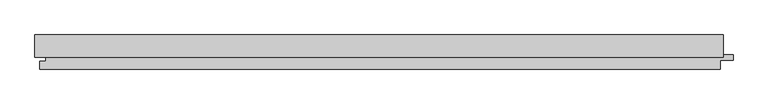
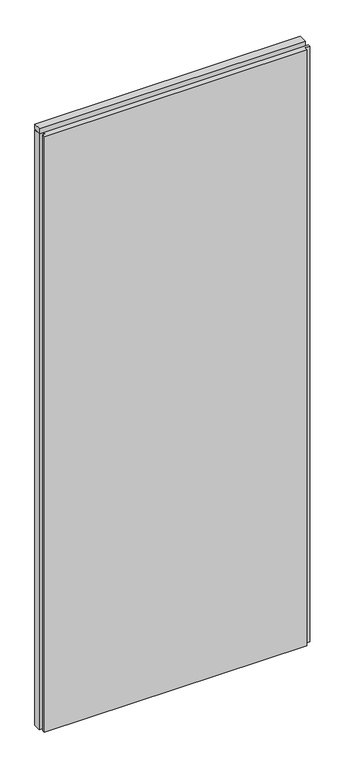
"""IFC4 building model written with IfcOpenShell, lengths in millimetres: plate geometry, Trimo_Qbiss Screen_Normal Panel-VERTICAL : HR - FB-F."""

from ifc_helpers import new_model, si_unit, frame, origin, place, context, project, spatial, polyline, outline, extrude, source, transform, mapped, element, save


def plate_391c79d7(model_context):
    return source(origin(), model_context, "Body", "SweptSolid", [
        extrude(outline(polyline([(-500.0, 93.9), (-500.0, 126.0), (500.0, 126.0), (500.0, 93.9), (-500.0, 93.9)])), frame((0.0, 0.0, 2390.5), z_axis=(0.0, 0.0, 1.0), x_axis=(1.0, 0.0, 0.0)), (0.0, 0.0, 1.0), 19.0),
        extrude(outline(polyline([(496.0, 97.0), (514.5, 97.0), (514.5, 89.0), (496.0, 89.0), (496.0, 76.0), (-493.0, 76.0), (-493.0, 88.0), (-484.5, 88.0), (-484.5, 98.0), (-500.0, 98.0), (-500.0, 126.0), (496.0, 126.0), (496.0, 97.0)])), frame((0.0, 0.0, 12.5), z_axis=(0.0, 0.0, 1.0), x_axis=(1.0, 0.0, 0.0)), (0.0, 0.0, 1.0), 2375.0),
    ])


if __name__ == "__main__":
    model = new_model("IFC4")
    model_context = context("Model", 3, world=origin())
    ifc_project = project(units=[si_unit("LENGTHUNIT", "METRE", prefix="MILLI")], contexts=[model_context])
    site = spatial("IfcSite", under=ifc_project)
    building = spatial("IfcBuilding", under=site)
    placement = place(None, origin())
    plate_shape = plate_391c79d7(model_context)
    element("IfcPlate", 1, ObjectType="Trimo_Qbiss Screen_Normal Panel-VERTICAL : HR - FB-F", at=placement, inside=building, context=model_context, shape_type="MappedRepresentation", body=[
        mapped(plate_shape, transform((0.0, 0.0, 0.0), x_axis=(1.0, 0.0, 0.0), y_axis=(0.0, 1.0, 0.0), z_axis=(0.0, 0.0, 1.0))),
    ])
    save(model, "model.ifc")
